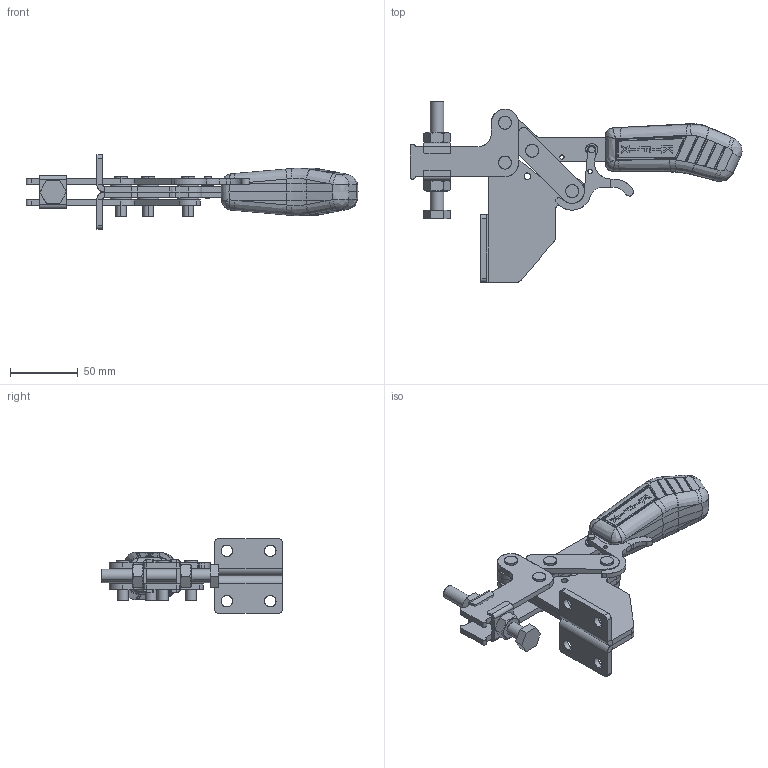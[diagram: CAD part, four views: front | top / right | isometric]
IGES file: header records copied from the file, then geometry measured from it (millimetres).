
Start section: SolidWorks IGES file using analytic representation for surfaces
Global section: file name: C:\Projetos\Grampos\KF-531\KF-531 F TR\KF-531 F TR.IGS; native system: SolidWorks 2018; preprocessor: SolidWorks 2018; author: Ricardo; date: 180417.080713; units: millimetre
Bounding box: 244.69 x 133.34 x 55 mm (x, y, z)
Surface area: 91750.4 mm2 (no closed solid volume)
Topology: 0 solids, 0 shells, 866 faces, 10577 edges, 10555 vertices
Faces by surface type: bspline 455, revolution 411
